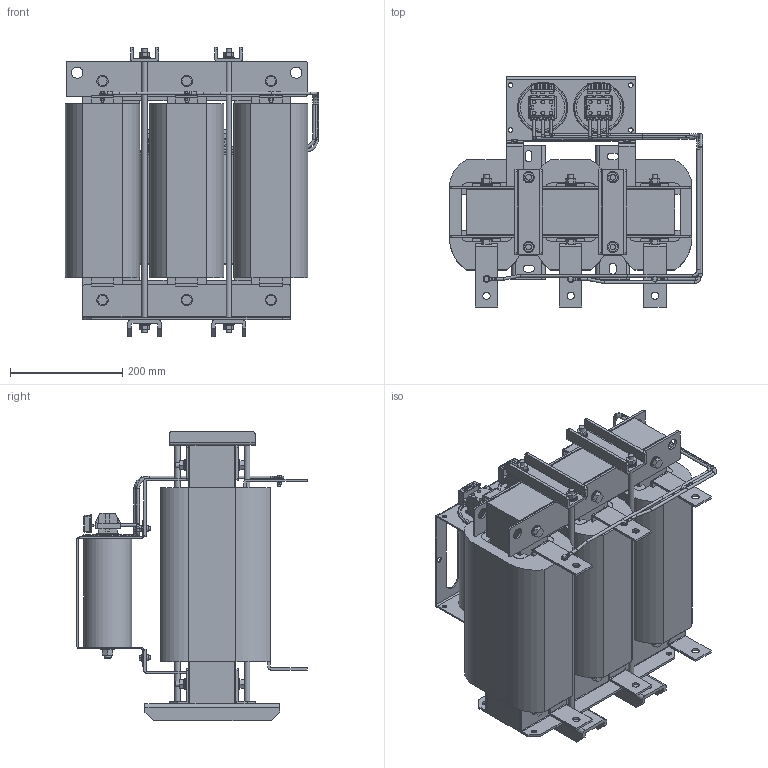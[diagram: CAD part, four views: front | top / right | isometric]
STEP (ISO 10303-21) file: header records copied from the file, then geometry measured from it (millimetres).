
FILE_DESCRIPTION (( 'STEP AP203' ), '1' );
FILE_NAME ('蔓躅漤铋 耔眢耥 翳朦蝠 _ ISINOF-160_317-4.STEP', '2026-07-20T12:20:24', ( '' ), ( '' ), 'SwSTEP 2.0', 'SolidWorks 2021', '' );
FILE_SCHEMA (( 'CONFIG_CONTROL_DESIGN' ));
Length unit declared in the file: millimetre
Products named in the file (169): 160KW淏玾疏薦疏萇蕨ん_71; 160KW淏玾疏薦疏萇蕨ん_22; 160KW淏玾疏薦疏萇蕨ん_84; 160KW淏玾疏薦疏萇蕨ん_106; 160KW淏玾疏薦疏萇蕨ん_3; 160KW淏玾疏薦疏萇蕨ん_27; 160KW淏玾疏薦疏萇蕨ん_133; 160KW淏玾疏薦疏萇蕨ん_123; 160KW淏玾疏薦疏萇蕨ん_14; 160KW淏玾疏薦疏萇蕨ん_90; 160KW淏玾疏薦疏萇蕨ん_126; 160KW淏玾疏薦疏萇蕨ん_48; 160KW淏玾疏薦疏萇蕨ん_13; 160KW淏玾疏薦疏萇蕨ん_117; 160KW淏玾疏薦疏萇蕨ん_82; 160KW淏玾疏薦疏萇蕨ん_160; 160KW淏玾疏薦疏萇蕨ん_85; 160KW淏玾疏薦疏萇蕨ん_148; 160KW淏玾疏薦疏萇蕨ん_81; 160KW淏玾疏薦疏萇蕨ん_92; 160KW淏玾疏薦疏萇蕨ん_20; 160KW淏玾疏薦疏萇蕨ん_120; 160KW淏玾疏薦疏萇蕨ん_35; 160KW淏玾疏薦疏萇蕨ん_158; 160KW淏玾疏薦疏萇蕨ん_98; 160KW淏玾疏薦疏萇蕨ん_29; 160KW淏玾疏薦疏萇蕨ん_65; 160KW淏玾疏薦疏萇蕨ん_70; 160KW淏玾疏薦疏萇蕨ん_151; 160KW淏玾疏薦疏萇蕨ん_163; 160KW淏玾疏薦疏萇蕨ん_32; 160KW淏玾疏薦疏萇蕨ん_57; 160KW淏玾疏薦疏萇蕨ん_4; 160KW淏玾疏薦疏萇蕨ん_53; 160KW淏玾疏薦疏萇蕨ん_7; 160KW淏玾疏薦疏萇蕨ん_6; 160KW淏玾疏薦疏萇蕨ん_12; 160KW淏玾疏薦疏萇蕨ん_52; 160KW淏玾疏薦疏萇蕨ん_41; 160KW淏玾疏薦疏萇蕨ん_80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
Assembly tree (168 placements, depth 2):
  蔓躅漤铋 耔眢耥 翳朦蝠 _ ISINOF-160_317-4
    160KW淏玾疏薦疏萇蕨ん_32
    160KW淏玾疏薦疏萇蕨ん_81
    160KW淏玾疏薦疏萇蕨ん_62
    160KW淏玾疏薦疏萇蕨ん_80
    160KW淏玾疏薦疏萇蕨ん_101
    160KW淏玾疏薦疏萇蕨ん_87
    160KW淏玾疏薦疏萇蕨ん_53
    160KW淏玾疏薦疏萇蕨ん_126
    160KW淏玾疏薦疏萇蕨ん_29
    160KW淏玾疏薦疏萇蕨ん_15
    160KW淏玾疏薦疏萇蕨ん_100
    160KW淏玾疏薦疏萇蕨ん_111
    160KW淏玾疏薦疏萇蕨ん_91
    160KW淏玾疏薦疏萇蕨ん_115
    160KW淏玾疏薦疏萇蕨ん_139
    160KW淏玾疏薦疏萇蕨ん_102
    160KW淏玾疏薦疏萇蕨ん_48
    160KW淏玾疏薦疏萇蕨ん_39
    160KW淏玾疏薦疏萇蕨ん_147
    160KW淏玾疏薦疏萇蕨ん_88
    160KW淏玾疏薦疏萇蕨ん_55
    160KW淏玾疏薦疏萇蕨ん_92
    160KW淏玾疏薦疏萇蕨ん_47
    160KW淏玾疏薦疏萇蕨ん_17
    160KW淏玾疏薦疏萇蕨ん_75
    160KW淏玾疏薦疏萇蕨ん_85
    160KW淏玾疏薦疏萇蕨ん_67
    160KW淏玾疏薦疏萇蕨ん_94
    160KW淏玾疏薦疏萇蕨ん_28
    160KW淏玾疏薦疏萇蕨ん_148
    160KW淏玾疏薦疏萇蕨ん_140
    160KW淏玾疏薦疏萇蕨ん_153
    160KW淏玾疏薦疏萇蕨ん_145
    160KW淏玾疏薦疏萇蕨ん
    160KW淏玾疏薦疏萇蕨ん_13
    160KW淏玾疏薦疏萇蕨ん_50
    160KW淏玾疏薦疏萇蕨ん_51
    160KW淏玾疏薦疏萇蕨ん_133
    160KW淏玾疏薦疏萇蕨ん_97
    160KW淏玾疏薦疏萇蕨ん_109
    160KW淏玾疏薦疏萇蕨ん_107
    160KW淏玾疏薦疏萇蕨ん_159
    160KW淏玾疏薦疏萇蕨ん_137
    160KW淏玾疏薦疏萇蕨ん_110
    160KW淏玾疏薦疏萇蕨ん_143
    160KW淏玾疏薦疏萇蕨ん_36
    160KW淏玾疏薦疏萇蕨ん_78
    160KW淏玾疏薦疏萇蕨ん_22
    160KW淏玾疏薦疏萇蕨ん_96
    160KW淏玾疏薦疏萇蕨ん_31
    160KW淏玾疏薦疏萇蕨ん_82
    160KW淏玾疏薦疏萇蕨ん_161
    160KW淏玾疏薦疏萇蕨ん_57
    160KW淏玾疏薦疏萇蕨ん_117
    160KW淏玾疏薦疏萇蕨ん_65
    160KW淏玾疏薦疏萇蕨ん_122
    160KW淏玾疏薦疏萇蕨ん_84
    160KW淏玾疏薦疏萇蕨ん_146
    160KW淏玾疏薦疏萇蕨ん_11
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Bounding box: 450.79 x 410.5 x 514.91 mm (x, y, z)
Volume: 28650914.2 mm3; surface area: 3212681.2 mm2
Topology: 168 solids, 168 shells, 1900 faces, 4609 edges, 3053 vertices
Faces by surface type: plane 1307, cylinder 507, bspline 61, torus 23, cone 2
Full cylindrical faces by diameter (mm): 4.8 x3, 5 x34, 6 x10, 6.3 x24, 6.4 x3, 7 x3, 8 x8, 9 x4, 9.6 x6, 10 x12, 11 x4, 12 x6, 13 x8, 15.588 x14, 20 x36, 24 x3, 78.861 x2, 86 x2, 89 x2, 90 x2
Entity records: 77100 total; most frequent: CARTESIAN_POINT 14704, DIRECTION 9045, ORIENTED_EDGE 8726, EDGE_CURVE 4363, VECTOR 3195, LINE 3195, VERTEX_POINT 3021, AXIS2_PLACEMENT_3D 2925
